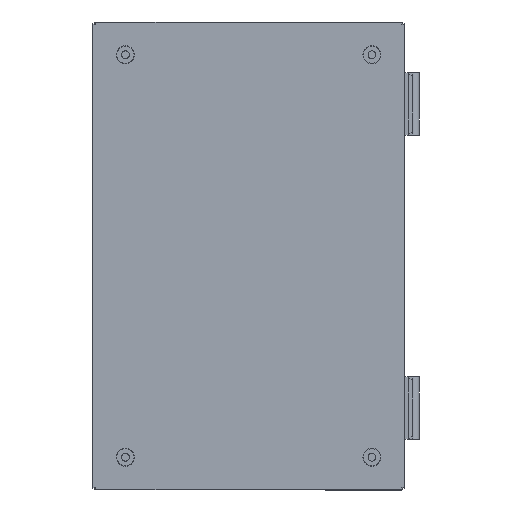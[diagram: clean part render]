
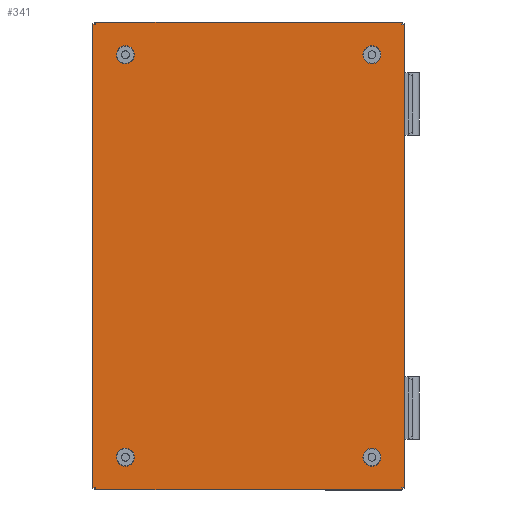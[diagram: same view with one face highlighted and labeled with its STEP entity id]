
A CAD part, front view. The second image highlights one B-rep face of the part: STEP entity #341.
In plain terms, the highlighted planar face has unit normal (0, -1, 0).
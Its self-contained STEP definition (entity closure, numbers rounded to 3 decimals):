
#341 = ADVANCED_FACE('',(#342,#362,#373,#393,#404),#526,.T.);
#342 = FACE_BOUND('',#343,.T.);
#343 = EDGE_LOOP('',(#344,#355));
#344 = ORIENTED_EDGE('',*,*,#345,.F.);
#345 = EDGE_CURVE('',#346,#348,#350,.T.);
#346 = VERTEX_POINT('',#347);
#347 = CARTESIAN_POINT('',(-79.,-1.2,-125.));
#348 = VERTEX_POINT('',#349);
#349 = CARTESIAN_POINT('',(-79.,-1.2,-133.));
#350 = CIRCLE('',#351,4.);
#351 = AXIS2_PLACEMENT_3D('',#352,#353,#354);
#352 = CARTESIAN_POINT('',(-79.,-1.2,-129.));
#353 = DIRECTION('',(0.,-1.,0.));
#354 = DIRECTION('',(0.,0.,1.));
#355 = ORIENTED_EDGE('',*,*,#356,.F.);
#356 = EDGE_CURVE('',#348,#346,#357,.T.);
#357 = CIRCLE('',#358,4.);
#358 = AXIS2_PLACEMENT_3D('',#359,#360,#361);
#359 = CARTESIAN_POINT('',(-79.,-1.2,-129.));
#360 = DIRECTION('',(0.,-1.,0.));
#361 = DIRECTION('',(0.,0.,1.));
#362 = FACE_BOUND('',#363,.T.);
#363 = EDGE_LOOP('',(#364));
#364 = ORIENTED_EDGE('',*,*,#365,.F.);
#365 = EDGE_CURVE('',#366,#366,#368,.T.);
#366 = VERTEX_POINT('',#367);
#367 = CARTESIAN_POINT('',(79.,-1.2,-133.));
#368 = CIRCLE('',#369,4.);
#369 = AXIS2_PLACEMENT_3D('',#370,#371,#372);
#370 = CARTESIAN_POINT('',(79.,-1.2,-129.));
#371 = DIRECTION('',(0.,-1.,0.));
#372 = DIRECTION('',(0.,0.,-1.));
#373 = FACE_BOUND('',#374,.T.);
#374 = EDGE_LOOP('',(#375,#386));
#375 = ORIENTED_EDGE('',*,*,#376,.F.);
#376 = EDGE_CURVE('',#377,#379,#381,.T.);
#377 = VERTEX_POINT('',#378);
#378 = CARTESIAN_POINT('',(79.,-1.2,133.));
#379 = VERTEX_POINT('',#380);
#380 = CARTESIAN_POINT('',(79.,-1.2,125.));
#381 = CIRCLE('',#382,4.);
#382 = AXIS2_PLACEMENT_3D('',#383,#384,#385);
#383 = CARTESIAN_POINT('',(79.,-1.2,129.));
#384 = DIRECTION('',(0.,-1.,0.));
#385 = DIRECTION('',(0.,0.,1.));
#386 = ORIENTED_EDGE('',*,*,#387,.F.);
#387 = EDGE_CURVE('',#379,#377,#388,.T.);
#388 = CIRCLE('',#389,4.);
#389 = AXIS2_PLACEMENT_3D('',#390,#391,#392);
#390 = CARTESIAN_POINT('',(79.,-1.2,129.));
#391 = DIRECTION('',(0.,-1.,0.));
#392 = DIRECTION('',(0.,0.,1.));
#393 = FACE_BOUND('',#394,.T.);
#394 = EDGE_LOOP('',(#395));
#395 = ORIENTED_EDGE('',*,*,#396,.F.);
#396 = EDGE_CURVE('',#397,#397,#399,.T.);
#397 = VERTEX_POINT('',#398);
#398 = CARTESIAN_POINT('',(-79.,-1.2,125.));
#399 = CIRCLE('',#400,4.);
#400 = AXIS2_PLACEMENT_3D('',#401,#402,#403);
#401 = CARTESIAN_POINT('',(-79.,-1.2,129.));
#402 = DIRECTION('',(0.,-1.,0.));
#403 = DIRECTION('',(0.,0.,-1.));
#404 = FACE_BOUND('',#405,.T.);
#405 = EDGE_LOOP('',(#406,#419,#430,#438,#449,#460,#468,#479,#490,#498,
    #509,#520));
#406 = ORIENTED_EDGE('',*,*,#407,.F.);
#407 = EDGE_CURVE('',#408,#410,#412,.T.);
#408 = VERTEX_POINT('',#409);
#409 = CARTESIAN_POINT('',(-98.2,-1.2,148.2));
#410 = VERTEX_POINT('',#411);
#411 = CARTESIAN_POINT('',(-98.574,-1.2,150.));
#412 = B_SPLINE_CURVE_WITH_KNOTS('',3,(#413,#414,#415,#416,#417,#418),
  .UNSPECIFIED.,.F.,.F.,(4,2,4),(0.004,0.005,
    0.006),.UNSPECIFIED.);
#413 = CARTESIAN_POINT('',(-98.2,-1.2,148.2));
#414 = CARTESIAN_POINT('',(-98.287,-1.2,148.495));
#415 = CARTESIAN_POINT('',(-98.371,-1.2,148.79));
#416 = CARTESIAN_POINT('',(-98.498,-1.2,149.39));
#417 = CARTESIAN_POINT('',(-98.543,-1.2,149.695));
#418 = CARTESIAN_POINT('',(-98.574,-1.2,150.));
#419 = ORIENTED_EDGE('',*,*,#420,.T.);
#420 = EDGE_CURVE('',#408,#421,#423,.T.);
#421 = VERTEX_POINT('',#422);
#422 = CARTESIAN_POINT('',(-100.,-1.2,148.574));
#423 = B_SPLINE_CURVE_WITH_KNOTS('',3,(#424,#425,#426,#427,#428,#429),
  .UNSPECIFIED.,.F.,.F.,(4,2,4),(0.004,0.005,
    0.006),.UNSPECIFIED.);
#424 = CARTESIAN_POINT('',(-98.2,-1.2,148.2));
#425 = CARTESIAN_POINT('',(-98.495,-1.2,148.287));
#426 = CARTESIAN_POINT('',(-98.79,-1.2,148.371));
#427 = CARTESIAN_POINT('',(-99.39,-1.2,148.498));
#428 = CARTESIAN_POINT('',(-99.695,-1.2,148.543));
#429 = CARTESIAN_POINT('',(-100.,-1.2,148.574));
#430 = ORIENTED_EDGE('',*,*,#431,.T.);
#431 = EDGE_CURVE('',#421,#432,#434,.T.);
#432 = VERTEX_POINT('',#433);
#433 = CARTESIAN_POINT('',(-100.,-1.2,-148.574));
#434 = LINE('',#435,#436);
#435 = CARTESIAN_POINT('',(-100.,-1.2,1650.));
#436 = VECTOR('',#437,1.);
#437 = DIRECTION('',(0.,0.,-1.));
#438 = ORIENTED_EDGE('',*,*,#439,.F.);
#439 = EDGE_CURVE('',#440,#432,#442,.T.);
#440 = VERTEX_POINT('',#441);
#441 = CARTESIAN_POINT('',(-98.2,-1.2,-148.2));
#442 = B_SPLINE_CURVE_WITH_KNOTS('',3,(#443,#444,#445,#446,#447,#448),
  .UNSPECIFIED.,.F.,.F.,(4,2,4),(0.004,0.005,
    0.006),.UNSPECIFIED.);
#443 = CARTESIAN_POINT('',(-98.2,-1.2,-148.2));
#444 = CARTESIAN_POINT('',(-98.495,-1.2,-148.287));
#445 = CARTESIAN_POINT('',(-98.79,-1.2,-148.371));
#446 = CARTESIAN_POINT('',(-99.39,-1.2,-148.498));
#447 = CARTESIAN_POINT('',(-99.695,-1.2,-148.543));
#448 = CARTESIAN_POINT('',(-100.,-1.2,-148.574));
#449 = ORIENTED_EDGE('',*,*,#450,.T.);
#450 = EDGE_CURVE('',#440,#451,#453,.T.);
#451 = VERTEX_POINT('',#452);
#452 = CARTESIAN_POINT('',(-98.574,-1.2,-150.));
#453 = B_SPLINE_CURVE_WITH_KNOTS('',3,(#454,#455,#456,#457,#458,#459),
  .UNSPECIFIED.,.F.,.F.,(4,2,4),(0.004,0.005,
    0.006),.UNSPECIFIED.);
#454 = CARTESIAN_POINT('',(-98.2,-1.2,-148.2));
#455 = CARTESIAN_POINT('',(-98.287,-1.2,-148.495));
#456 = CARTESIAN_POINT('',(-98.371,-1.2,-148.79));
#457 = CARTESIAN_POINT('',(-98.498,-1.2,-149.39));
#458 = CARTESIAN_POINT('',(-98.543,-1.2,-149.695));
#459 = CARTESIAN_POINT('',(-98.574,-1.2,-150.));
#460 = ORIENTED_EDGE('',*,*,#461,.T.);
#461 = EDGE_CURVE('',#451,#462,#464,.T.);
#462 = VERTEX_POINT('',#463);
#463 = CARTESIAN_POINT('',(98.574,-1.2,-150.));
#464 = LINE('',#465,#466);
#465 = CARTESIAN_POINT('',(-1600.,-1.2,-150.));
#466 = VECTOR('',#467,1.);
#467 = DIRECTION('',(1.,0.,0.));
#468 = ORIENTED_EDGE('',*,*,#469,.F.);
#469 = EDGE_CURVE('',#470,#462,#472,.T.);
#470 = VERTEX_POINT('',#471);
#471 = CARTESIAN_POINT('',(98.2,-1.2,-148.2));
#472 = B_SPLINE_CURVE_WITH_KNOTS('',3,(#473,#474,#475,#476,#477,#478),
  .UNSPECIFIED.,.F.,.F.,(4,2,4),(0.004,0.005,
    0.006),.UNSPECIFIED.);
#473 = CARTESIAN_POINT('',(98.2,-1.2,-148.2));
#474 = CARTESIAN_POINT('',(98.287,-1.2,-148.495));
#475 = CARTESIAN_POINT('',(98.371,-1.2,-148.79));
#476 = CARTESIAN_POINT('',(98.498,-1.2,-149.39));
#477 = CARTESIAN_POINT('',(98.543,-1.2,-149.695));
#478 = CARTESIAN_POINT('',(98.574,-1.2,-150.));
#479 = ORIENTED_EDGE('',*,*,#480,.T.);
#480 = EDGE_CURVE('',#470,#481,#483,.T.);
#481 = VERTEX_POINT('',#482);
#482 = CARTESIAN_POINT('',(100.,-1.2,-148.574));
#483 = B_SPLINE_CURVE_WITH_KNOTS('',3,(#484,#485,#486,#487,#488,#489),
  .UNSPECIFIED.,.F.,.F.,(4,2,4),(0.004,0.005,
    0.006),.UNSPECIFIED.);
#484 = CARTESIAN_POINT('',(98.2,-1.2,-148.2));
#485 = CARTESIAN_POINT('',(98.495,-1.2,-148.287));
#486 = CARTESIAN_POINT('',(98.79,-1.2,-148.371));
#487 = CARTESIAN_POINT('',(99.39,-1.2,-148.498));
#488 = CARTESIAN_POINT('',(99.695,-1.2,-148.543));
#489 = CARTESIAN_POINT('',(100.,-1.2,-148.574));
#490 = ORIENTED_EDGE('',*,*,#491,.T.);
#491 = EDGE_CURVE('',#481,#492,#494,.T.);
#492 = VERTEX_POINT('',#493);
#493 = CARTESIAN_POINT('',(100.,-1.2,148.574));
#494 = LINE('',#495,#496);
#495 = CARTESIAN_POINT('',(100.,-1.2,-1650.));
#496 = VECTOR('',#497,1.);
#497 = DIRECTION('',(0.,0.,1.));
#498 = ORIENTED_EDGE('',*,*,#499,.F.);
#499 = EDGE_CURVE('',#500,#492,#502,.T.);
#500 = VERTEX_POINT('',#501);
#501 = CARTESIAN_POINT('',(98.2,-1.2,148.2));
#502 = B_SPLINE_CURVE_WITH_KNOTS('',3,(#503,#504,#505,#506,#507,#508),
  .UNSPECIFIED.,.F.,.F.,(4,2,4),(0.004,0.005,
    0.006),.UNSPECIFIED.);
#503 = CARTESIAN_POINT('',(98.2,-1.2,148.2));
#504 = CARTESIAN_POINT('',(98.495,-1.2,148.287));
#505 = CARTESIAN_POINT('',(98.79,-1.2,148.371));
#506 = CARTESIAN_POINT('',(99.39,-1.2,148.498));
#507 = CARTESIAN_POINT('',(99.695,-1.2,148.543));
#508 = CARTESIAN_POINT('',(100.,-1.2,148.574));
#509 = ORIENTED_EDGE('',*,*,#510,.T.);
#510 = EDGE_CURVE('',#500,#511,#513,.T.);
#511 = VERTEX_POINT('',#512);
#512 = CARTESIAN_POINT('',(98.574,-1.2,150.));
#513 = B_SPLINE_CURVE_WITH_KNOTS('',3,(#514,#515,#516,#517,#518,#519),
  .UNSPECIFIED.,.F.,.F.,(4,2,4),(0.004,0.005,
    0.006),.UNSPECIFIED.);
#514 = CARTESIAN_POINT('',(98.2,-1.2,148.2));
#515 = CARTESIAN_POINT('',(98.287,-1.2,148.495));
#516 = CARTESIAN_POINT('',(98.371,-1.2,148.79));
#517 = CARTESIAN_POINT('',(98.498,-1.2,149.39));
#518 = CARTESIAN_POINT('',(98.543,-1.2,149.695));
#519 = CARTESIAN_POINT('',(98.574,-1.2,150.));
#520 = ORIENTED_EDGE('',*,*,#521,.T.);
#521 = EDGE_CURVE('',#511,#410,#522,.T.);
#522 = LINE('',#523,#524);
#523 = CARTESIAN_POINT('',(1600.,-1.2,150.));
#524 = VECTOR('',#525,1.);
#525 = DIRECTION('',(-1.,0.,0.));
#526 = PLANE('',#527);
#527 = AXIS2_PLACEMENT_3D('',#528,#529,#530);
#528 = CARTESIAN_POINT('',(0.,-1.2,0.));
#529 = DIRECTION('',(0.,-1.,0.));
#530 = DIRECTION('',(0.,-0.,-1.));
